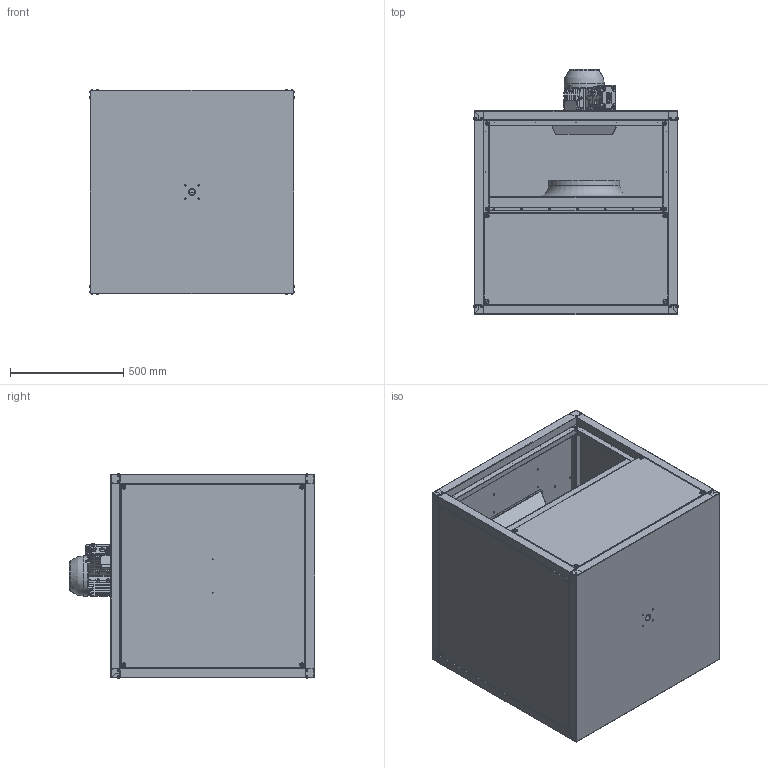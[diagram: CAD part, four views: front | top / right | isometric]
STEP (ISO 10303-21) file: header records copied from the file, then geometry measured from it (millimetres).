
FILE_DESCRIPTION (( 'STEP AP203' ), '1' );
FILE_NAME ('146700-00_MPC500D4F4TI30_step.step', '2018-10-09T10:13:34', ( '' ), ( '' ), 'SwSTEP 2.0', 'SolidWorks 2017', '' );
FILE_SCHEMA (( 'CONFIG_CONTROL_DESIGN' ));
Products named in the file (1): 146700-00_MPC500D4F4TI30_step
Bounding box: 902.6 x 1083.6 x 902.6 mm (x, y, z)
Surface area: 9819754.6 mm2 (no closed solid volume)
Topology: 0 solids, 300 shells, 1716 faces, 8023 edges, 6365 vertices
Faces by surface type: plane 891, cylinder 439, torus 304, bspline 57, cone 25
Entity records: 92629 total; most frequent: CARTESIAN_POINT 29062, DIRECTION 13493, ORIENTED_EDGE 10357, EDGE_CURVE 8021, VERTEX_POINT 6365, AXIS2_PLACEMENT_3D 4541, VECTOR 4411, LINE 4411
